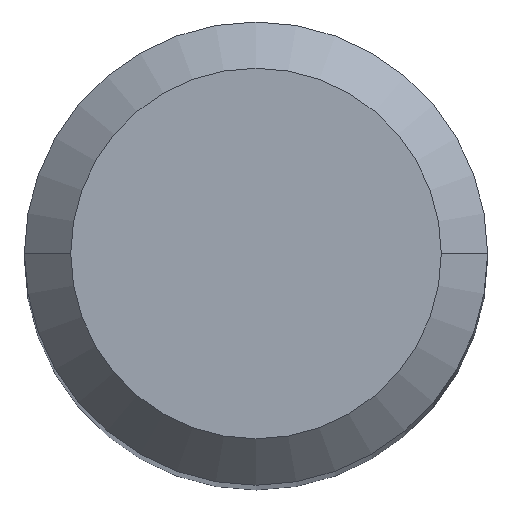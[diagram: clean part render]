
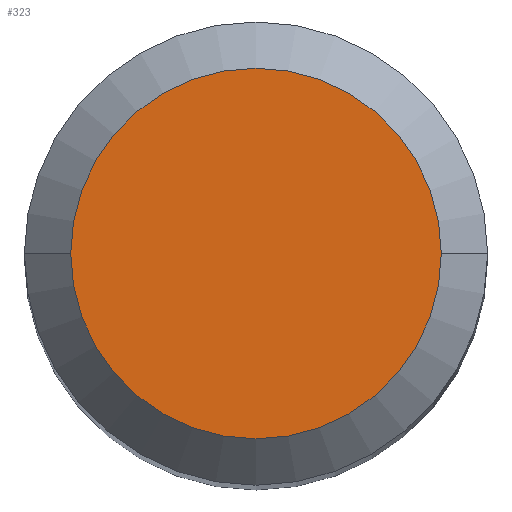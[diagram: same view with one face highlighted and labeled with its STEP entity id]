
A CAD part, top view. The second image highlights one B-rep face of the part: STEP entity #323.
In plain terms, the highlighted planar face has unit normal (0, 0, 1).
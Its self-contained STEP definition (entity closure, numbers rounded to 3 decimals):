
#3 = PLANE ( 'NONE',  #189 ) ;
#33 = AXIS2_PLACEMENT_3D ( 'NONE', #50, #544, #590 ) ;
#50 = CARTESIAN_POINT ( 'NONE',  ( 0., 0., 0. ) ) ;
#60 = VERTEX_POINT ( 'NONE', #93 ) ;
#75 = CIRCLE ( 'NONE', #33, 2.4 ) ;
#93 = CARTESIAN_POINT ( 'NONE',  ( -2.4, 0., 0. ) ) ;
#98 = DIRECTION ( 'NONE',  ( 0., 0., 1. ) ) ;
#101 = CARTESIAN_POINT ( 'NONE',  ( 0., 2.4, 0. ) ) ;
#109 = EDGE_LOOP ( 'NONE', ( #540, #220 ) ) ;
#128 = CIRCLE ( 'NONE', #360, 2.4 ) ;
#138 = EDGE_CURVE ( 'NONE', #509, #60, #128, .T. ) ;
#189 = AXIS2_PLACEMENT_3D ( 'NONE', #101, #98, #337 ) ;
#204 = CARTESIAN_POINT ( 'NONE',  ( 2.4, 0., 0. ) ) ;
#220 = ORIENTED_EDGE ( 'NONE', *, *, #138, .F. ) ;
#240 = DIRECTION ( 'NONE',  ( -1., 0., 0. ) ) ;
#246 = DIRECTION ( 'NONE',  ( 0., 0., -1. ) ) ;
#323 = ADVANCED_FACE ( 'NONE', ( #531 ), #3, .T. ) ;
#337 = DIRECTION ( 'NONE',  ( 1., 0., 0. ) ) ;
#360 = AXIS2_PLACEMENT_3D ( 'NONE', #519, #246, #240 ) ;
#384 = EDGE_CURVE ( 'NONE', #60, #509, #75, .T. ) ;
#509 = VERTEX_POINT ( 'NONE', #204 ) ;
#519 = CARTESIAN_POINT ( 'NONE',  ( 0., 0., 0. ) ) ;
#531 = FACE_OUTER_BOUND ( 'NONE', #109, .T. ) ;
#540 = ORIENTED_EDGE ( 'NONE', *, *, #384, .F. ) ;
#544 = DIRECTION ( 'NONE',  ( 0., 0., -1. ) ) ;
#590 = DIRECTION ( 'NONE',  ( -1., 0., 0. ) ) ;
